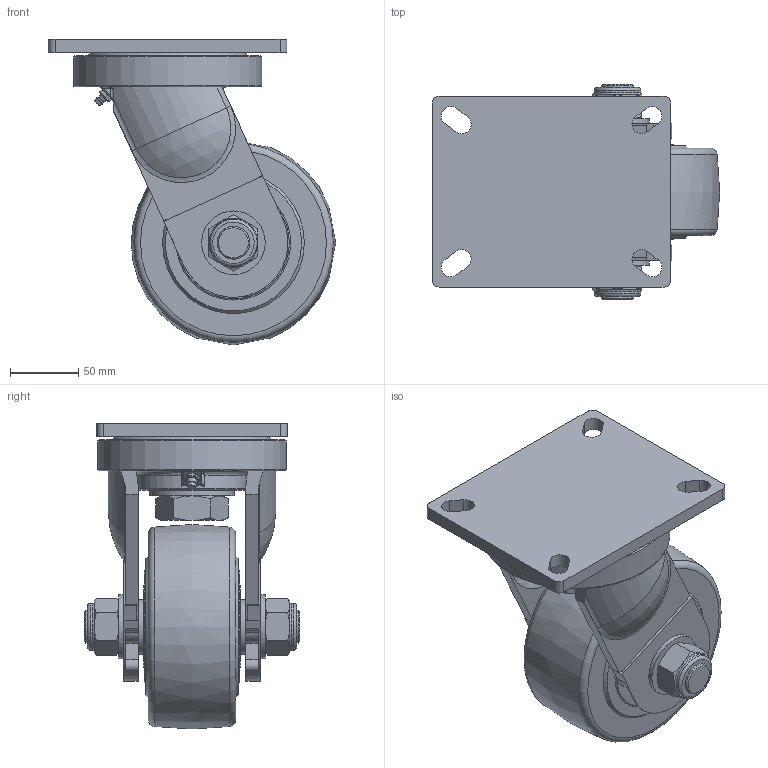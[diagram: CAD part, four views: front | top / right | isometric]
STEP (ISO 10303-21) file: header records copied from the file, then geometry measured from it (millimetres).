
FILE_DESCRIPTION((''),'2;1');
FILE_NAME('C:\Documents and Settings\Administrator\바탕 화면\3D STEP\GXT-SERIES\GXT-150\GXT-150-SF-HUD\GXT-150-SF(HUD).stp','2010-12-27T14:41:04',('Administrator'),(''),'Autodesk Inventor 2009','Autodesk Inventor 2009','');
FILE_SCHEMA(('AUTOMOTIVE_DESIGN { 1 0 10303 214 1 1 1 1 }'));
Length unit declared in the file: millimetre
Products named in the file (1): GXT-150-SF(HUD)
Bounding box: 210.85 x 158 x 224.54 mm (x, y, z)
Volume: 2044757.1 mm3; surface area: 277357.2 mm2
Topology: 11 solids, 11 shells, 406 faces, 1050 edges, 670 vertices
Faces by surface type: plane 183, cylinder 123, bspline 40, cone 34, torus 22, sphere 4
Full cylindrical faces by diameter (mm): 5 x1, 6 x1, 22 x2, 24 x6, 24.3 x2, 24.5 x2, 26 x2, 30 x6, 30.5 x1, 34.4 x2, 35 x3, 40 x2, 40.667 x4, 46.7 x2, 48.5 x1, 51.333 x4, 55 x3, 56 x1, 57 x1, 62 x3, 62.5 x1, 78 x2, 80 x1, 138 x1
Entity records: 13367 total; most frequent: CARTESIAN_POINT 4115, DIRECTION 1927, ORIENTED_EDGE 1772, EDGE_CURVE 886, AXIS2_PLACEMENT_3D 769, VERTEX_POINT 629, EDGE_LOOP 598, FACE_OUTER_BOUND 406
